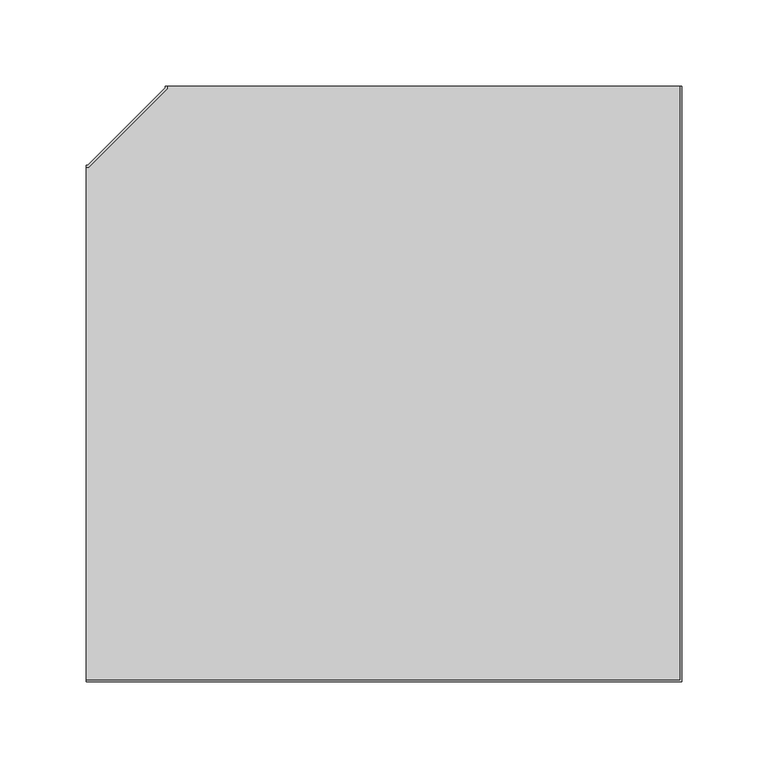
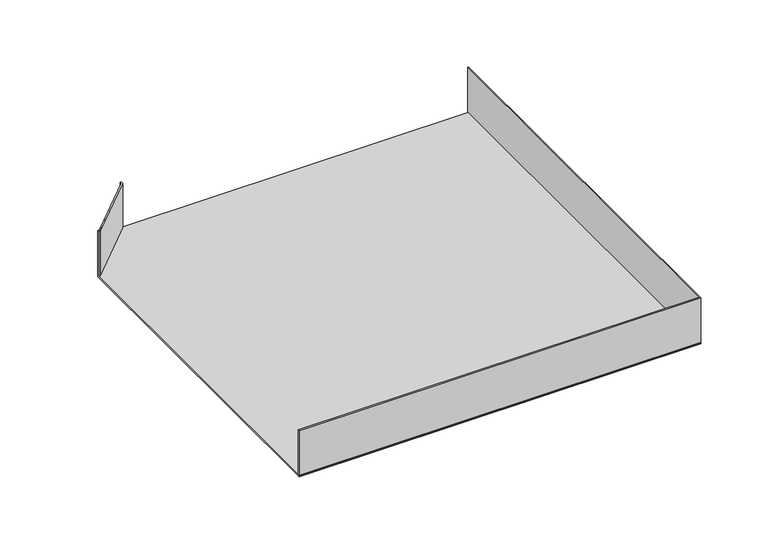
"""IFC4 building model written with IfcOpenShell, lengths in millimetres: cable carrier fitting geometry, BAKS_Horizontal bend : KKBL/KKMBL_H42."""

from ifc_helpers import new_model, si_unit, frame, origin, place, context, project, spatial, polyline, outline, extrude, faceted_brep, source, transform, mapped, element, save


def cable_carrier_fitting_717dd42d(model_context):
    return source(origin(), model_context, "Body", "SolidModel", [
        faceted_brep([(-196.0, 149.0, 21.0), (-196.0, 150.0, 21.0), (-196.0, 150.0, -21.0), (-196.0, -150.0, -21.0), (-196.0, -150.0, -20.0), (-196.0, 149.0, -20.0), (-194.5857864, 149.0, 21.0), (-149.0, 194.5857864, 21.0), (-149.0, 196.0, 21.0), (-150.0, 196.0, 21.0), (-150.0, 195.0, 21.0), (-195.0, 150.0, 21.0), (-195.0, 150.0, -20.0), (-195.0, 150.0, -21.0), (-150.0, 195.0, -21.0), (-150.0, 196.0, -21.0), (150.0, 196.0, -21.0), (150.0, -150.0, -21.0), (-194.5857864, 149.0, -20.0), (-150.0, 195.0, -20.0), (-149.0, 194.5857864, -20.0), (-149.0, 196.0, -20.0), (150.0, 196.0, -20.0), (150.0, -150.0, -20.0)], [[[0, 1, 2, 3, 4, 5]], [[1, 0, 6, 7, 8, 9, 10, 11]], [[2, 1, 11, 12, 13]], [[3, 2, 13, 14, 15, 16, 17]], [[6, 0, 5, 18]], [[11, 10, 19, 14, 13, 12]], [[7, 6, 18, 20]], [[9, 8, 21, 22, 16, 15]], [[10, 9, 15, 14, 19]], [[8, 7, 20, 21]], [[4, 23, 22, 21, 20, 18, 5]], [[23, 4, 3, 17]], [[22, 23, 17, 16]]]),
        extrude(outline(polyline([(-196.0, -150.0), (-196.0, -149.0), (149.0, -149.0), (149.0, 196.0), (150.0, 196.0), (150.0, -150.0), (-196.0, -150.0)])), frame((0.0, 0.0, -21.0), z_axis=(0.0, 0.0, 1.0), x_axis=(1.0, 0.0, 0.0)), (0.0, 0.0, 1.0), 42.0),
    ])


if __name__ == "__main__":
    model = new_model("IFC4")
    model_context = context("Model", 3, world=origin())
    ifc_project = project(units=[si_unit("LENGTHUNIT", "METRE", prefix="MILLI")], contexts=[model_context])
    site = spatial("IfcSite", under=ifc_project)
    building = spatial("IfcBuilding", under=site)
    placement = place(None, origin())
    cable_carrier_fitting_shape = cable_carrier_fitting_717dd42d(model_context)
    element("IfcCableCarrierFitting", 1, ObjectType="BAKS_Horizontal bend : KKBL/KKMBL_H42", at=placement, inside=building, context=model_context, shape_type="MappedRepresentation", body=[
        mapped(cable_carrier_fitting_shape, transform((0.0, 0.0, 0.0), x_axis=(1.0, 0.0, 0.0), y_axis=(0.0, 1.0, 0.0), z_axis=(0.0, 0.0, 1.0))),
    ])
    save(model, "model.ifc")
